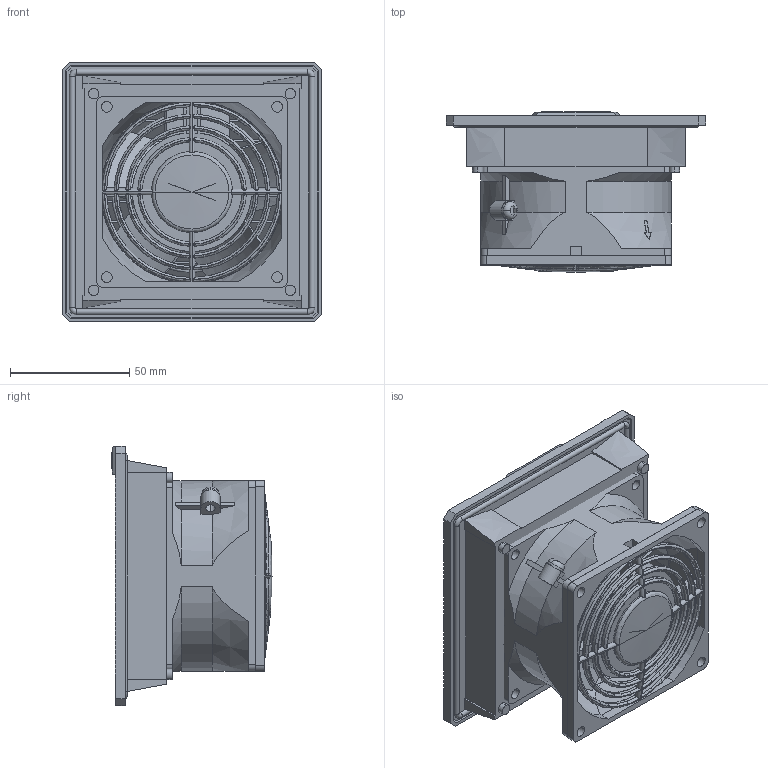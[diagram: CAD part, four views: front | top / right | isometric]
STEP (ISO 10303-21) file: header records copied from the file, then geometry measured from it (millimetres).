
FILE_DESCRIPTION (( 'STEP AP214' ), '1' );
FILE_NAME ('PF 11000_AC_AP214.STEP', '2019-05-29T13:32:38', ( '' ), ( '' ), 'SwSTEP 2.0', 'SolidWorks 2017', '' );
FILE_SCHEMA (( 'AUTOMOTIVE_DESIGN' ));
Length unit declared in the file: millimetre
Products named in the file (6): safty guard PF 1x; fan Serie 8000 N_010051710  8550 N; 30162-013; cover PF1x; housing PF1x; PF 11000_AC_AP214
Assembly tree (5 placements, depth 2):
  PF 11000_AC_AP214
    housing PF1x
    cover PF1x
    30162-013
    fan Serie 8000 N_010051710  8550 N
    safty guard PF 1x
Bounding box: 109 x 67.34 x 109 mm (x, y, z)
Volume: 154815.2 mm3; surface area: 121808.1 mm2
Topology: 6 solids, 6 shells, 1476 faces, 4162 edges, 2676 vertices
Faces by surface type: plane 696, cylinder 425, bspline 242, torus 92, cone 21
Entity records: 61395 total; most frequent: CARTESIAN_POINT 25500, ORIENTED_EDGE 8316, DIRECTION 6040, EDGE_CURVE 4158, VERTEX_POINT 2676, VECTOR 2064, LINE 2064, AXIS2_PLACEMENT_3D 1988
